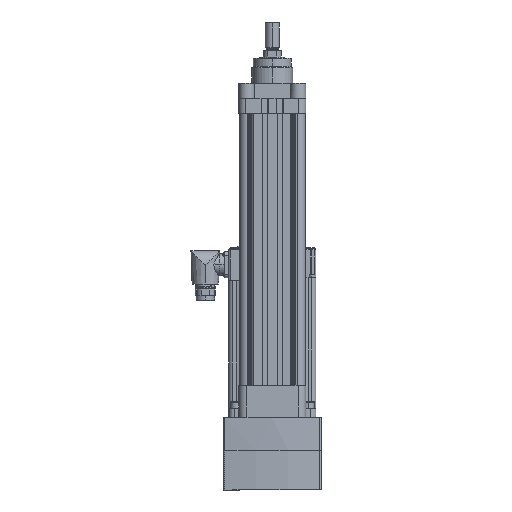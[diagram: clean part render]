
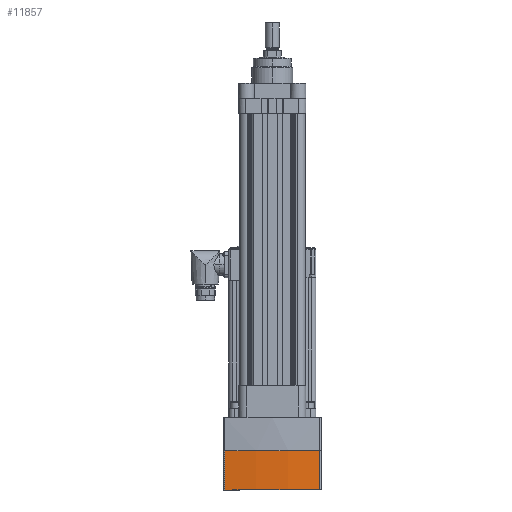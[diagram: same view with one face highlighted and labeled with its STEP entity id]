
A CAD part, left-side view. The second image highlights one B-rep face of the part: STEP entity #11857.
In plain terms, the highlighted cylindrical face has radius 385 mm (diameter 770 mm), a partial arc.
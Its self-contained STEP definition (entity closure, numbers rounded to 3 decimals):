
#194 = ORIENTED_EDGE ( 'NONE', *, *, #37383, .F. ) ;
#2076 = VERTEX_POINT ( 'NONE', #5849 ) ;
#2498 = DIRECTION ( 'NONE',  ( 0., 0., 1. ) ) ;
#4608 = LINE ( 'NONE', #16717, #62239 ) ;
#5849 = CARTESIAN_POINT ( 'NONE',  ( 53.709, 0., 3.765 ) ) ;
#9050 = CARTESIAN_POINT ( 'NONE',  ( -53.709, 0., 3.765 ) ) ;
#11857 = ADVANCED_FACE ( 'NONE', ( #57093 ), #13916, .T. ) ;
#12219 = VERTEX_POINT ( 'NONE', #50438 ) ;
#13916 = CYLINDRICAL_SURFACE ( 'NONE', #35675, 385. ) ;
#16717 = CARTESIAN_POINT ( 'NONE',  ( 53.709, -44.013, 3.765 ) ) ;
#25531 = VERTEX_POINT ( 'NONE', #9050 ) ;
#26121 = CIRCLE ( 'NONE', #61360, 385. ) ;
#26920 = AXIS2_PLACEMENT_3D ( 'NONE', #67382, #34923, #2498 ) ;
#27731 = LINE ( 'NONE', #47015, #40378 ) ;
#27810 = DIRECTION ( 'NONE',  ( 0., -1., 0. ) ) ;
#31072 = CIRCLE ( 'NONE', #26920, 385. ) ;
#34923 = DIRECTION ( 'NONE',  ( 0., -1., 0. ) ) ;
#35675 = AXIS2_PLACEMENT_3D ( 'NONE', #42402, #41932, #36914 ) ;
#36914 = DIRECTION ( 'NONE',  ( 0., 0., 1. ) ) ;
#37383 = EDGE_CURVE ( 'NONE', #40721, #2076, #4608, .T. ) ;
#38454 = DIRECTION ( 'NONE',  ( 0., 1., 0. ) ) ;
#40378 = VECTOR ( 'NONE', #52454, 1000. ) ;
#40721 = VERTEX_POINT ( 'NONE', #64764 ) ;
#41932 = DIRECTION ( 'NONE',  ( 0., 1., 0. ) ) ;
#42402 = CARTESIAN_POINT ( 'NONE',  ( 0., 0., 385. ) ) ;
#47015 = CARTESIAN_POINT ( 'NONE',  ( -53.709, 0., 3.765 ) ) ;
#48362 = ORIENTED_EDGE ( 'NONE', *, *, #49470, .F. ) ;
#48909 = ORIENTED_EDGE ( 'NONE', *, *, #50617, .T. ) ;
#49470 = EDGE_CURVE ( 'NONE', #12219, #40721, #26121, .T. ) ;
#50438 = CARTESIAN_POINT ( 'NONE',  ( -53.709, -44., 3.765 ) ) ;
#50439 = EDGE_CURVE ( 'NONE', #25531, #2076, #31072, .T. ) ;
#50617 = EDGE_CURVE ( 'NONE', #12219, #25531, #27731, .T. ) ;
#52454 = DIRECTION ( 'NONE',  ( 0., 1., 0. ) ) ;
#57093 = FACE_OUTER_BOUND ( 'NONE', #67652, .T. ) ;
#60241 = CARTESIAN_POINT ( 'NONE',  ( 0., -44., 385. ) ) ;
#61360 = AXIS2_PLACEMENT_3D ( 'NONE', #60241, #27810, #65672 ) ;
#62239 = VECTOR ( 'NONE', #38454, 1000. ) ;
#64764 = CARTESIAN_POINT ( 'NONE',  ( 53.709, -44., 3.765 ) ) ;
#65672 = DIRECTION ( 'NONE',  ( 0., 0., 1. ) ) ;
#67356 = ORIENTED_EDGE ( 'NONE', *, *, #50439, .T. ) ;
#67382 = CARTESIAN_POINT ( 'NONE',  ( 0., 0., 385. ) ) ;
#67652 = EDGE_LOOP ( 'NONE', ( #67356, #194, #48362, #48909 ) ) ;
